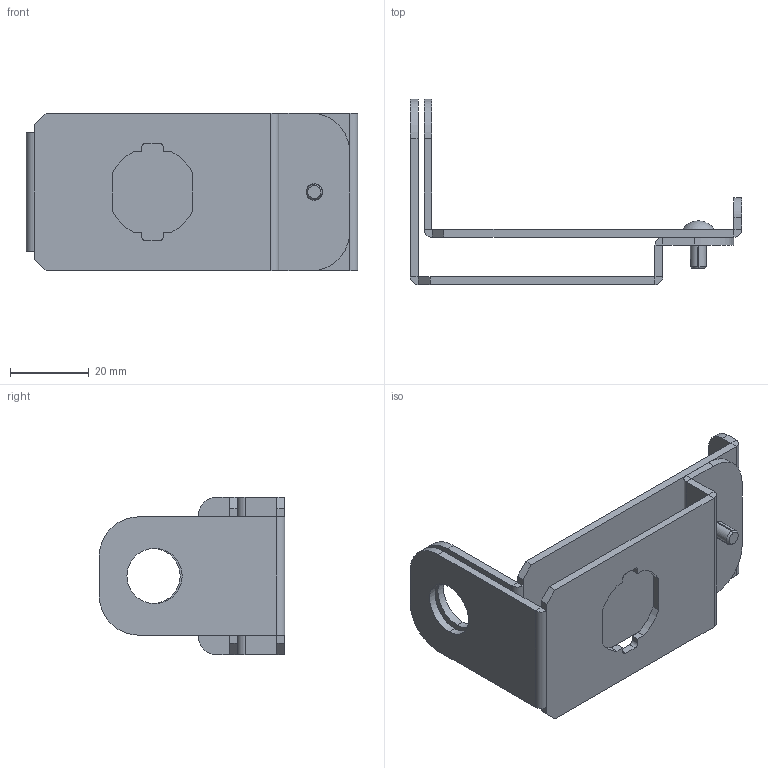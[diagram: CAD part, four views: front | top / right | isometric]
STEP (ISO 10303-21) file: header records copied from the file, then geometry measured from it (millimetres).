
FILE_DESCRIPTION (( 'STEP AP203' ), '1' );
FILE_NAME ('950.253 - Asma Kilit Aparatý , çeyrek dönüþlü kilitler için.STEP', '2026-09-23T07:47:56', ( '' ), ( '' ), 'SwSTEP 2.0', 'SolidWorks 2025', '' );
FILE_SCHEMA (( 'CONFIG_CONTROL_DESIGN' ));
Length unit declared in the file: millimetre
Products named in the file (4): PERÇİN İNOX 4X10_M2X6 PERÇİN; Part-1_rev.2; Part-2_rev.2; 950.253 - Asma Kilit Aparatı , çeyrek dönüşlü kilitler için
Assembly tree (3 placements, depth 2):
  950.253 - Asma Kilit Aparatı , çeyrek dönüşlü kilitler için
    Part-1_rev.2
    Part-2_rev.2
    PERÇİN İNOX 4X10_M2X6 PERÇİN
Bounding box: 84 x 47 x 40 mm (x, y, z)
Volume: 17297.8 mm3; surface area: 19010.2 mm2
Topology: 3 solids, 3 shells, 117 faces, 289 edges, 179 vertices
Faces by surface type: plane 73, cylinder 36, bspline 4, cone 2, sphere 2
Entity records: 3951 total; most frequent: CARTESIAN_POINT 741, DIRECTION 597, ORIENTED_EDGE 578, EDGE_CURVE 289, AXIS2_PLACEMENT_3D 203, VECTOR 191, LINE 191, VERTEX_POINT 179
